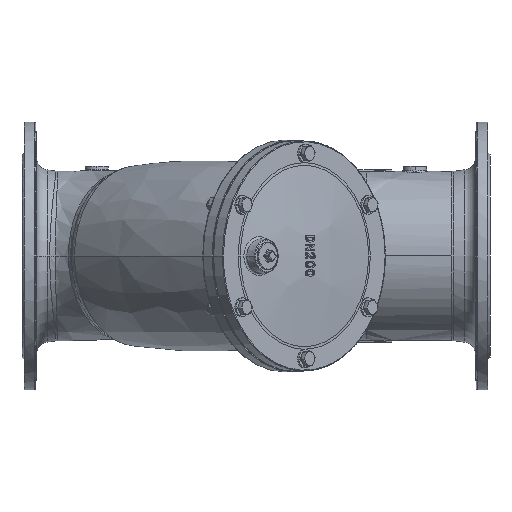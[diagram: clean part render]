
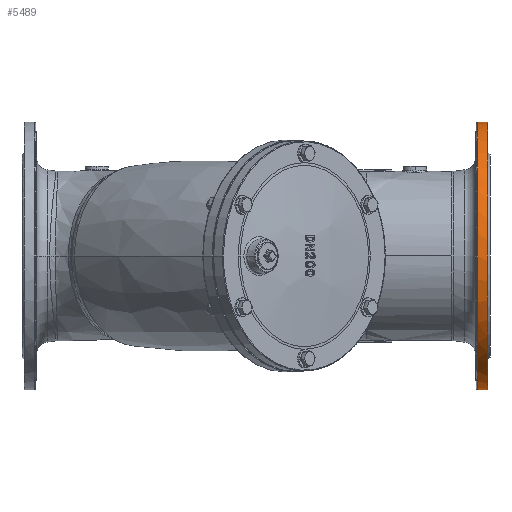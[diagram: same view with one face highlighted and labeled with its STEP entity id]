
A CAD part, front view. The second image highlights one B-rep face of the part: STEP entity #5489.
In plain terms, the highlighted cylindrical face has radius 171.36 mm (diameter 342.72 mm), a partial arc.
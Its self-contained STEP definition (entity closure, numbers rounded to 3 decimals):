
#2446 = CARTESIAN_POINT ( 'NONE',  ( 284.205, 0., 0. ) ) ;
#2667 = CARTESIAN_POINT ( 'NONE',  ( 284.205, 0., 0. ) ) ;
#3351 = CARTESIAN_POINT ( 'NONE',  ( 297., -162.608, -55.215 ) ) ;
#4259 = CARTESIAN_POINT ( 'NONE',  ( 297., -170.255, -22.431 ) ) ;
#5489 = ADVANCED_FACE ( 'NONE', ( #53962 ), #38496, .T. ) ;
#6644 = DIRECTION ( 'NONE',  ( 0., 0., -1. ) ) ;
#7348 = VERTEX_POINT ( 'NONE', #46363 ) ;
#7361 = AXIS2_PLACEMENT_3D ( 'NONE', #2446, #53955, #38048 ) ;
#8579 = CARTESIAN_POINT ( 'NONE',  ( 297., -162.608, 55.215 ) ) ;
#9038 = CARTESIAN_POINT ( 'NONE',  ( 297., -104.528, -136.25 ) ) ;
#9264 = CARTESIAN_POINT ( 'NONE',  ( 297., -165.879, -44.431 ) ) ;
#9835 = VECTOR ( 'NONE', #31551, 1000. ) ;
#10286 = CIRCLE ( 'NONE', #24595, 171.36 ) ;
#10985 = EDGE_CURVE ( 'NONE', #61453, #49271, #55966, .T. ) ;
#11154 = CARTESIAN_POINT ( 'NONE',  ( 297., 0., -171.36 ) ) ;
#13602 = CARTESIAN_POINT ( 'NONE',  ( 297., -11.215, -171.36 ) ) ;
#14288 = CARTESIAN_POINT ( 'NONE',  ( 297., -85.877, 148.712 ) ) ;
#14515 = CARTESIAN_POINT ( 'NONE',  ( 297., -171.36, 11.215 ) ) ;
#14751 = CARTESIAN_POINT ( 'NONE',  ( 297., -129.1, -113.239 ) ) ;
#14956 = ORIENTED_EDGE ( 'NONE', *, *, #16681, .T. ) ;
#16681 = EDGE_CURVE ( 'NONE', #45104, #7348, #10286, .T. ) ;
#18160 = CARTESIAN_POINT ( 'NONE',  ( 297., 0., -171.36 ) ) ;
#18410 = ORIENTED_EDGE ( 'NONE', *, *, #10985, .T. ) ;
#19073 = CARTESIAN_POINT ( 'NONE',  ( 297., -148.712, 85.877 ) ) ;
#19442 = VERTEX_POINT ( 'NONE', #48442 ) ;
#19750 = CARTESIAN_POINT ( 'NONE',  ( 297., -154.024, -75.938 ) ) ;
#20774 = DIRECTION ( 'NONE',  ( 1., 0., 0. ) ) ;
#22181 = LINE ( 'NONE', #25801, #34400 ) ;
#24333 = DIRECTION ( 'NONE',  ( 1., 0., 0. ) ) ;
#24595 = AXIS2_PLACEMENT_3D ( 'NONE', #2667, #24333, #29120 ) ;
#25801 = CARTESIAN_POINT ( 'NONE',  ( 290.808, 0., -171.36 ) ) ;
#25821 = ORIENTED_EDGE ( 'NONE', *, *, #37452, .T. ) ;
#27184 = DIRECTION ( 'NONE',  ( 1., 0., 0. ) ) ;
#27890 = AXIS2_PLACEMENT_3D ( 'NONE', #52924, #27184, #6644 ) ;
#29120 = DIRECTION ( 'NONE',  ( 0., 0., -1. ) ) ;
#29572 = CARTESIAN_POINT ( 'NONE',  ( 297., -85.877, -148.712 ) ) ;
#29802 = CARTESIAN_POINT ( 'NONE',  ( 297., -11.215, 171.36 ) ) ;
#29980 = ORIENTED_EDGE ( 'NONE', *, *, #41901, .T. ) ;
#30022 = CARTESIAN_POINT ( 'NONE',  ( 297., -136.25, 104.528 ) ) ;
#30277 = EDGE_CURVE ( 'NONE', #19442, #49271, #49790, .T. ) ;
#31551 = DIRECTION ( 'NONE',  ( 1., 0., 0. ) ) ;
#32609 = EDGE_LOOP ( 'NONE', ( #56050, #25821, #14956, #29980, #18410 ) ) ;
#33587 = CARTESIAN_POINT ( 'NONE',  ( 297., 0., 171.36 ) ) ;
#34400 = VECTOR ( 'NONE', #20774, 1000. ) ;
#34806 = CARTESIAN_POINT ( 'NONE',  ( 297., -22.431, 170.255 ) ) ;
#35043 = CARTESIAN_POINT ( 'NONE',  ( 297., -55.215, 162.608 ) ) ;
#35274 = CARTESIAN_POINT ( 'NONE',  ( 297., -113.239, -129.1 ) ) ;
#37452 = EDGE_CURVE ( 'NONE', #19442, #45104, #40662, .T. ) ;
#38048 = DIRECTION ( 'NONE',  ( 0., 0., -1. ) ) ;
#38496 = CYLINDRICAL_SURFACE ( 'NONE', #27890, 171.36 ) ;
#39826 = CARTESIAN_POINT ( 'NONE',  ( 297., -171.36, -11.215 ) ) ;
#40286 = CARTESIAN_POINT ( 'NONE',  ( 297., -165.879, 44.431 ) ) ;
#40515 = CARTESIAN_POINT ( 'NONE',  ( 297., -104.528, 136.25 ) ) ;
#40662 = CIRCLE ( 'NONE', #7361, 171.36 ) ;
#41901 = EDGE_CURVE ( 'NONE', #7348, #61453, #22181, .T. ) ;
#45104 = VERTEX_POINT ( 'NONE', #46426 ) ;
#45528 = CARTESIAN_POINT ( 'NONE',  ( 297., -113.239, 129.1 ) ) ;
#46363 = CARTESIAN_POINT ( 'NONE',  ( 284.205, 0., -171.36 ) ) ;
#46426 = CARTESIAN_POINT ( 'NONE',  ( 284.205, -171.36, 0. ) ) ;
#48442 = CARTESIAN_POINT ( 'NONE',  ( 284.205, 0., 171.36 ) ) ;
#49167 = CARTESIAN_POINT ( 'NONE',  ( 297., -22.431, -170.255 ) ) ;
#49271 = VERTEX_POINT ( 'NONE', #33587 ) ;
#49790 = LINE ( 'NONE', #62706, #9835 ) ;
#50310 = CARTESIAN_POINT ( 'NONE',  ( 297., -170.255, 22.431 ) ) ;
#52924 = CARTESIAN_POINT ( 'NONE',  ( 290.808, 0., 0. ) ) ;
#53955 = DIRECTION ( 'NONE',  ( 1., 0., 0. ) ) ;
#53962 = FACE_OUTER_BOUND ( 'NONE', #32609, .T. ) ;
#54386 = CARTESIAN_POINT ( 'NONE',  ( 297., -44.431, -165.879 ) ) ;
#55751 = CARTESIAN_POINT ( 'NONE',  ( 297., -129.1, 113.239 ) ) ;
#55966 = B_SPLINE_CURVE_WITH_KNOTS ( 'NONE', 3,
 ( #18160, #13602, #49167, #54386, #59838, #66662, #29572, #9038, #35274, #14751, #60733, #65981, #19750, #3351, #9264, #4259, #39826, #14515, #50310, #40286, #8579, #66210, #19073, #30022, #55751, #45528, #40515, #14288, #55978, #35043, #61640, #34806, #29802, #56211 ),
 .UNSPECIFIED., .F., .F.,
 ( 4, 2, 2, 2, 2, 2, 2, 2, 2, 2, 2, 2, 2, 2, 2, 2, 4 ),
 ( 0., 0.063, 0.125, 0.188, 0.25, 0.313, 0.375, 0.438, 0.5, 0.563, 0.625, 0.688, 0.75, 0.813, 0.875, 0.938, 1. ),
 .UNSPECIFIED. ) ;
#55978 = CARTESIAN_POINT ( 'NONE',  ( 297., -75.938, 154.024 ) ) ;
#56050 = ORIENTED_EDGE ( 'NONE', *, *, #30277, .F. ) ;
#56211 = CARTESIAN_POINT ( 'NONE',  ( 297., 0., 171.36 ) ) ;
#59838 = CARTESIAN_POINT ( 'NONE',  ( 297., -55.215, -162.608 ) ) ;
#60733 = CARTESIAN_POINT ( 'NONE',  ( 297., -136.25, -104.528 ) ) ;
#61453 = VERTEX_POINT ( 'NONE', #11154 ) ;
#61640 = CARTESIAN_POINT ( 'NONE',  ( 297., -44.431, 165.879 ) ) ;
#62706 = CARTESIAN_POINT ( 'NONE',  ( 290.808, 0., 171.36 ) ) ;
#65981 = CARTESIAN_POINT ( 'NONE',  ( 297., -148.712, -85.877 ) ) ;
#66210 = CARTESIAN_POINT ( 'NONE',  ( 297., -154.024, 75.938 ) ) ;
#66662 = CARTESIAN_POINT ( 'NONE',  ( 297., -75.938, -154.024 ) ) ;
